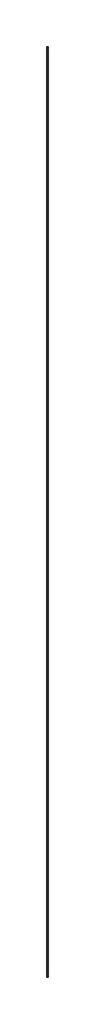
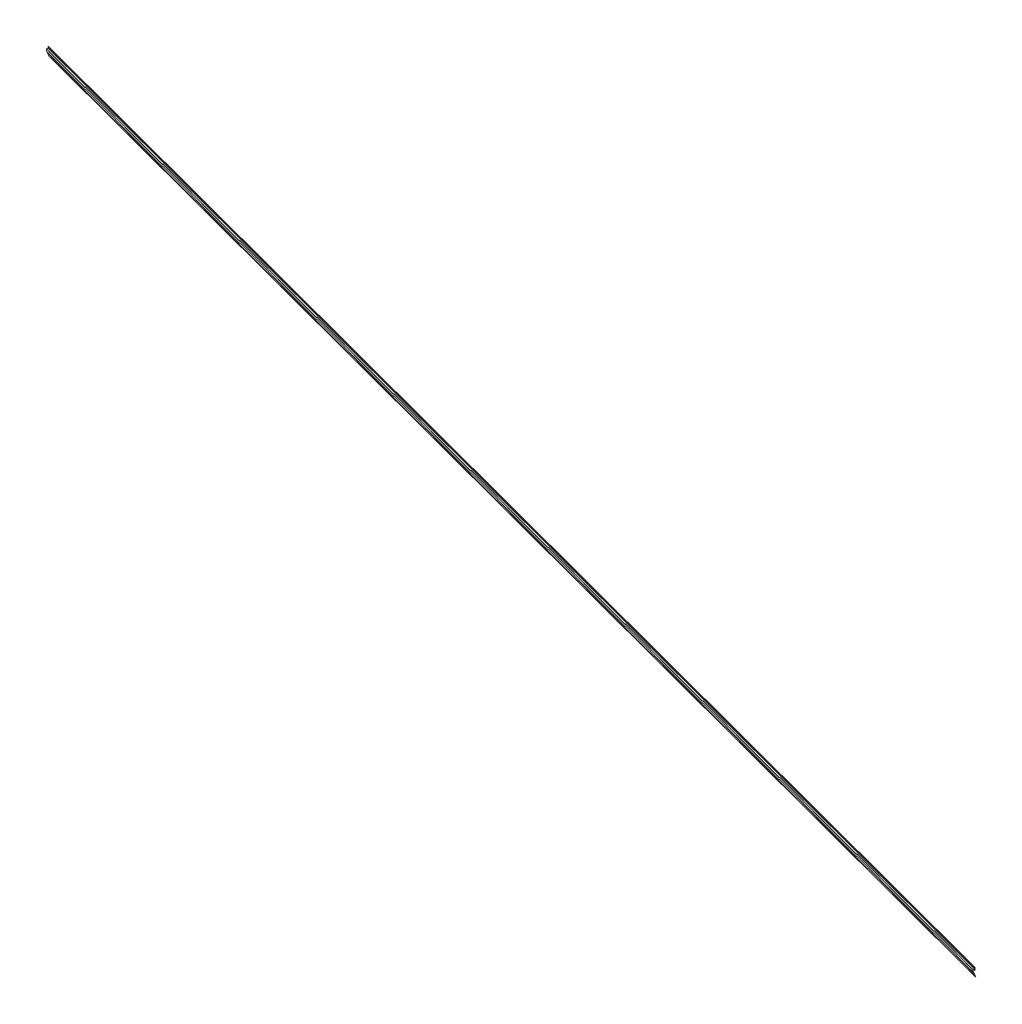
# One storey: 1 proxy.
"""IFC4 building model written with IfcOpenShell, lengths in millimetres."""

from ifc_helpers import new_model, si_unit, frame, origin, place, context, project, spatial, polyline, outline, extrude, element, save

model = new_model("IFC4")

# Units and contexts
model_context = context("Model", 3, world=origin())
ifc_project = project(units=[si_unit("LENGTHUNIT", "METRE", prefix="MILLI")], contexts=[model_context])

# Site, building, storey
site = spatial("IfcSite", under=ifc_project)
building = spatial("IfcBuilding", under=site)
storey = spatial("IfcBuildingStorey", under=building, Name="1 - Sotto solaio", Elevation=2700.0)

# Proxy
placement = place(None, origin())
element("IfcBuildingElementProxy", 1, Name="AQUASCUD LINE VOLTECO", ObjectType="AQUASCUD LINE VOLTECO", at=placement, inside=storey, context=model_context, shape_type="SweptSolid", body=[
    extrude(outline(polyline([(3050.0, 676.5769647), (3036.4238488, 676.5769647), (3007.4730054, 690.0769647), (2998.2622539, 690.0769647), (2995.0, 693.7000647), (2995.0, 695.9417795), (2998.9300969, 691.5769647), (3007.8055474, 691.5769647), (3036.7563908, 678.0769647), (3048.4605438, 678.0769647), (3048.1231173, 679.5385198), (3046.6231173, 679.5385198), (3045.1231173, 679.5385198), (3045.776815, 681.0385198), (3047.776815, 681.0385198), (3045.6901255, 690.0769647), (3043.0, 690.0769647), (3043.0, 688.5769647), (3040.0, 688.5769647), (3040.0, 691.5769647), (3060.0, 691.5769647), (3060.0, 688.5769647), (3057.0, 688.5769647), (3057.0, 690.0769647), (3047.2295817, 690.0769647), (3050.0, 678.0769647), (3050.0, 676.5769647)])), frame((0.0, -3159.7326939, 0.0), z_axis=(0.0, 1.0, 0.0), x_axis=(0.0, 0.0, 1.0)), (0.0, 0.0, 1.0), 10300.0),
])

save(model, "model.ifc")
